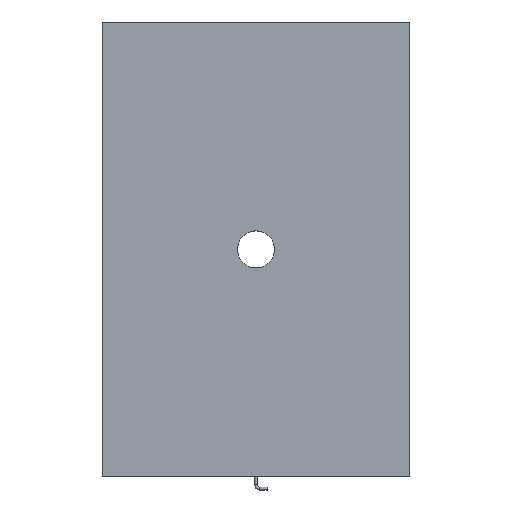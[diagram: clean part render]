
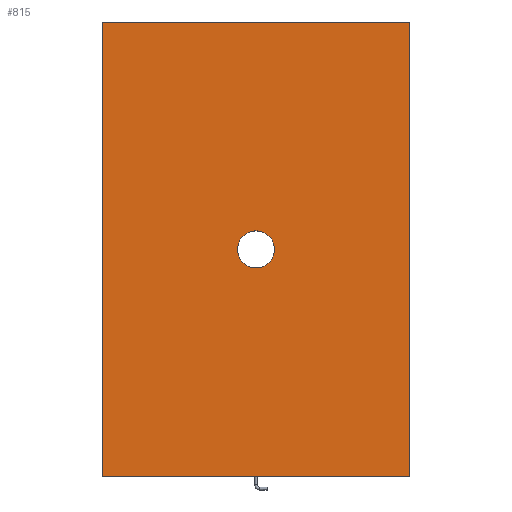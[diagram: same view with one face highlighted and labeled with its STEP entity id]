
A CAD part, top view. The second image highlights one B-rep face of the part: STEP entity #815.
In plain terms, the highlighted planar face has unit normal (0, 0, 1).
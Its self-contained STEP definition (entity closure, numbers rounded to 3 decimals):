
#5 = VERTEX_POINT ( 'NONE', #1595 ) ;
#8 = DIRECTION ( 'NONE',  ( 0., 1., 0. ) ) ;
#18 = CARTESIAN_POINT ( 'NONE',  ( -25., 0., 40. ) ) ;
#48 = ORIENTED_EDGE ( 'NONE', *, *, #371, .T. ) ;
#81 = EDGE_CURVE ( 'NONE', #319, #1179, #374, .T. ) ;
#101 = LINE ( 'NONE', #1360, #1390 ) ;
#121 = DIRECTION ( 'NONE',  ( 0., 0., -1. ) ) ;
#128 = EDGE_CURVE ( 'NONE', #1563, #1639, #1344, .T. ) ;
#276 = CIRCLE ( 'NONE', #325, 25. ) ;
#280 = ORIENTED_EDGE ( 'NONE', *, *, #1633, .T. ) ;
#319 = VERTEX_POINT ( 'NONE', #1903 ) ;
#325 = AXIS2_PLACEMENT_3D ( 'NONE', #1778, #935, #760 ) ;
#371 = EDGE_CURVE ( 'NONE', #1589, #1563, #688, .T. ) ;
#374 = LINE ( 'NONE', #1124, #1584 ) ;
#446 = VECTOR ( 'NONE', #1642, 1000. ) ;
#473 = CARTESIAN_POINT ( 'NONE',  ( 207., -306.5, 40. ) ) ;
#502 = DIRECTION ( 'NONE',  ( 1., 0., 0. ) ) ;
#510 = CARTESIAN_POINT ( 'NONE',  ( -206.5, -307., 40. ) ) ;
#521 = ORIENTED_EDGE ( 'NONE', *, *, #128, .T. ) ;
#584 = ORIENTED_EDGE ( 'NONE', *, *, #1541, .F. ) ;
#586 = CARTESIAN_POINT ( 'NONE',  ( -207., 306.5, 40. ) ) ;
#623 = DIRECTION ( 'NONE',  ( -0.707, -0.707, 0. ) ) ;
#638 = LINE ( 'NONE', #1836, #1440 ) ;
#648 = CARTESIAN_POINT ( 'NONE',  ( 0., 0., 40. ) ) ;
#670 = CARTESIAN_POINT ( 'NONE',  ( 207., -307., 40. ) ) ;
#688 = LINE ( 'NONE', #670, #1669 ) ;
#723 = ORIENTED_EDGE ( 'NONE', *, *, #917, .T. ) ;
#740 = ORIENTED_EDGE ( 'NONE', *, *, #1832, .F. ) ;
#760 = DIRECTION ( 'NONE',  ( 1., 0., 0. ) ) ;
#782 = DIRECTION ( 'NONE',  ( 1., 0., 0. ) ) ;
#785 = FACE_BOUND ( 'NONE', #1981, .T. ) ;
#795 = CARTESIAN_POINT ( 'NONE',  ( -207., -307., 40. ) ) ;
#807 = CARTESIAN_POINT ( 'NONE',  ( 0., 0., 40. ) ) ;
#812 = VECTOR ( 'NONE', #782, 1000. ) ;
#815 = ADVANCED_FACE ( 'NONE', ( #1244, #785 ), #1649, .F. ) ;
#901 = CARTESIAN_POINT ( 'NONE',  ( -206.5, -307., 40. ) ) ;
#917 = EDGE_CURVE ( 'NONE', #1639, #319, #1444, .T. ) ;
#921 = AXIS2_PLACEMENT_3D ( 'NONE', #807, #121, #966 ) ;
#935 = DIRECTION ( 'NONE',  ( 0., 0., 1. ) ) ;
#966 = DIRECTION ( 'NONE',  ( -1., 0., 0. ) ) ;
#970 = CARTESIAN_POINT ( 'NONE',  ( 25., 0., 40. ) ) ;
#1044 = DIRECTION ( 'NONE',  ( 0.707, -0.707, 0. ) ) ;
#1055 = VECTOR ( 'NONE', #1852, 1000. ) ;
#1124 = CARTESIAN_POINT ( 'NONE',  ( -207., 306.5, 40. ) ) ;
#1179 = VERTEX_POINT ( 'NONE', #586 ) ;
#1215 = CARTESIAN_POINT ( 'NONE',  ( 206.5, 307., 40. ) ) ;
#1243 = EDGE_CURVE ( 'NONE', #1847, #2170, #1804, .T. ) ;
#1244 = FACE_OUTER_BOUND ( 'NONE', #1645, .T. ) ;
#1273 = VERTEX_POINT ( 'NONE', #970 ) ;
#1337 = DIRECTION ( 'NONE',  ( 0., 0., 1. ) ) ;
#1344 = LINE ( 'NONE', #2168, #446 ) ;
#1360 = CARTESIAN_POINT ( 'NONE',  ( -207., -307., 40. ) ) ;
#1375 = ORIENTED_EDGE ( 'NONE', *, *, #1929, .T. ) ;
#1387 = CIRCLE ( 'NONE', #2135, 25. ) ;
#1390 = VECTOR ( 'NONE', #1913, 1000. ) ;
#1409 = VERTEX_POINT ( 'NONE', #18 ) ;
#1437 = CARTESIAN_POINT ( 'NONE',  ( 207., 306.5, 40. ) ) ;
#1440 = VECTOR ( 'NONE', #1660, 1000. ) ;
#1444 = LINE ( 'NONE', #2064, #1055 ) ;
#1479 = LINE ( 'NONE', #901, #1695 ) ;
#1541 = EDGE_CURVE ( 'NONE', #1273, #1409, #276, .T. ) ;
#1563 = VERTEX_POINT ( 'NONE', #1437 ) ;
#1584 = VECTOR ( 'NONE', #623, 1000. ) ;
#1589 = VERTEX_POINT ( 'NONE', #473 ) ;
#1595 = CARTESIAN_POINT ( 'NONE',  ( -207., -306.5, 40. ) ) ;
#1633 = EDGE_CURVE ( 'NONE', #1179, #5, #101, .T. ) ;
#1639 = VERTEX_POINT ( 'NONE', #1215 ) ;
#1642 = DIRECTION ( 'NONE',  ( -0.707, 0.707, 0. ) ) ;
#1645 = EDGE_LOOP ( 'NONE', ( #280, #1375, #2181, #2099, #48, #521, #723, #1763 ) ) ;
#1649 = PLANE ( 'NONE',  #921 ) ;
#1660 = DIRECTION ( 'NONE',  ( 0.707, 0.707, 0. ) ) ;
#1669 = VECTOR ( 'NONE', #8, 1000. ) ;
#1695 = VECTOR ( 'NONE', #1044, 1000. ) ;
#1763 = ORIENTED_EDGE ( 'NONE', *, *, #81, .T. ) ;
#1778 = CARTESIAN_POINT ( 'NONE',  ( 0., 0., 40. ) ) ;
#1804 = LINE ( 'NONE', #795, #812 ) ;
#1806 = CARTESIAN_POINT ( 'NONE',  ( 206.5, -307., 40. ) ) ;
#1832 = EDGE_CURVE ( 'NONE', #1409, #1273, #1387, .T. ) ;
#1836 = CARTESIAN_POINT ( 'NONE',  ( 207., -306.5, 40. ) ) ;
#1847 = VERTEX_POINT ( 'NONE', #510 ) ;
#1852 = DIRECTION ( 'NONE',  ( -1., 0., 0. ) ) ;
#1903 = CARTESIAN_POINT ( 'NONE',  ( -206.5, 307., 40. ) ) ;
#1913 = DIRECTION ( 'NONE',  ( 0., -1., 0. ) ) ;
#1929 = EDGE_CURVE ( 'NONE', #5, #1847, #1479, .T. ) ;
#1981 = EDGE_LOOP ( 'NONE', ( #740, #584 ) ) ;
#2064 = CARTESIAN_POINT ( 'NONE',  ( -207., 307., 40. ) ) ;
#2099 = ORIENTED_EDGE ( 'NONE', *, *, #2140, .T. ) ;
#2135 = AXIS2_PLACEMENT_3D ( 'NONE', #648, #1337, #502 ) ;
#2140 = EDGE_CURVE ( 'NONE', #2170, #1589, #638, .T. ) ;
#2168 = CARTESIAN_POINT ( 'NONE',  ( 206.5, 307., 40. ) ) ;
#2170 = VERTEX_POINT ( 'NONE', #1806 ) ;
#2181 = ORIENTED_EDGE ( 'NONE', *, *, #1243, .T. ) ;
